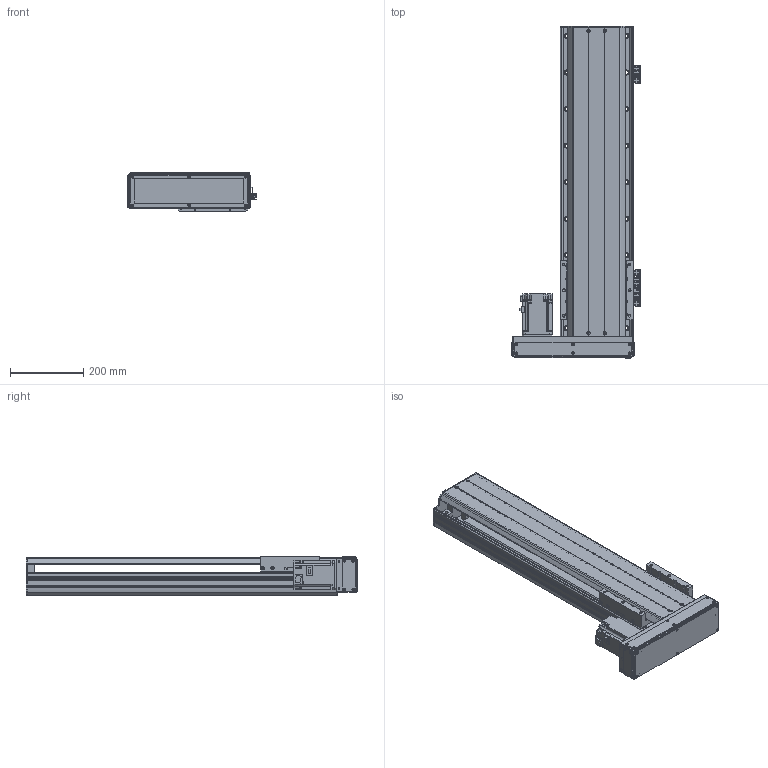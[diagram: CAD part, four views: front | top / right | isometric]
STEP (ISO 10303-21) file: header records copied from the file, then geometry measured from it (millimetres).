
FILE_DESCRIPTION(/* description */ ('MANUFACTURE'),/* implementation_level */ '2;1');
FILE_NAME(/* name */ '\\192.168.0.160\disk1\HAN SHIN Master\B-설계부문\C-표준\B-2024년\BC02-표준도면\+로봇 개선표준도면\홈페이지 표준 도면\홈페이지 최종 작업 폴더\3D\HR\HR200\HG200병렬\좌병렬\HG200-L70-N-0600-R10.stp',/* time_stamp */ '2025-01-18T10:54:18+09:00',/* author */ ('user'),/* organization */ (''),/* preprocessor_version */ 'ST-DEVELOPER v18.1',/* originating_system */ 'Autodesk Inventor 2022',/* authorisation */ 'LIP');
FILE_SCHEMA (('AUTOMOTIVE_DESIGN { 1 0 10303 214 3 1 1 }'));
Products named in the file (20): HG200-L70-N-0500-R10; HR200 S BASE-개선; HR180 FRONT BLOCK; HR180 FRONT BLOCK_1; HR200 FRONT COVER; HR120 STOPPER; HR200 SENSOR DOG; HR200 S UPCOVER; HR200 TABLE (W,N); 750W MOTOR PLATE; HG200 750W LR MOTOR PLATE-사출; hg-kr73_; 화살표; HR160 400W LR BELT COVER; HR200 ACRYL COVER -1; HR200 ACRYL COVER -1_1; HR200 ACRYL COVER -1_2; HG200 BOTTOM COVER; SENSOR BRK(EE-SX674A); EE_SX674A
Assembly tree (26 placements, depth 2):
  HG200-L70-N-0500-R10
    HR200 S BASE-개선
    HR180 FRONT BLOCK
    HR180 FRONT BLOCK_1
    HR200 FRONT COVER
    HR120 STOPPER  x2
    HR200 SENSOR DOG
    SENSOR BRK(EE-SX674A)  x3
    EE_SX674A  x3
    HR200 S UPCOVER
    HR200 TABLE (W,N)
    750W MOTOR PLATE
    HG200 750W LR MOTOR PLATE-사출
    hg-kr73_
    화살표  x2
    HR160 400W LR BELT COVER
    HR200 ACRYL COVER -1
    HR200 ACRYL COVER -1_1
    HR200 ACRYL COVER -1_2  x2
    HG200 BOTTOM COVER
Bounding box: 351 x 908 x 109 mm (x, y, z)
Volume: 6542196.1 mm3; surface area: 1767884.7 mm2
Topology: 26 solids, 26 shells, 3358 faces, 9485 edges, 6271 vertices
Faces by surface type: plane 2486, cylinder 742, cone 126, sphere 4
Full cylindrical faces by diameter (mm): 2.459 x50, 3 x10, 3.242 x18, 3.4 x20, 3.5 x6, 4 x6, 4.134 x10, 4.5 x14, 4.917 x30, 5 x20, 5.5 x5, 5.9 x4, 6 x6, 6.6 x28, 6.647 x28, 7 x4, 7.6 x4, 8 x4, 9 x30, 9.5 x1, 11 x28, 14 x18, 19 x1, 25 x1, 27 x1, 30 x1, 32 x1, 38 x1, 42 x2, 44.5 x1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
Entity records: 104840 total; most frequent: CARTESIAN_POINT 20098, ORIENTED_EDGE 17698, DIRECTION 16459, EDGE_CURVE 8849, LINE 7249, VECTOR 7249, VERTEX_POINT 5907, AXIS2_PLACEMENT_3D 4605
